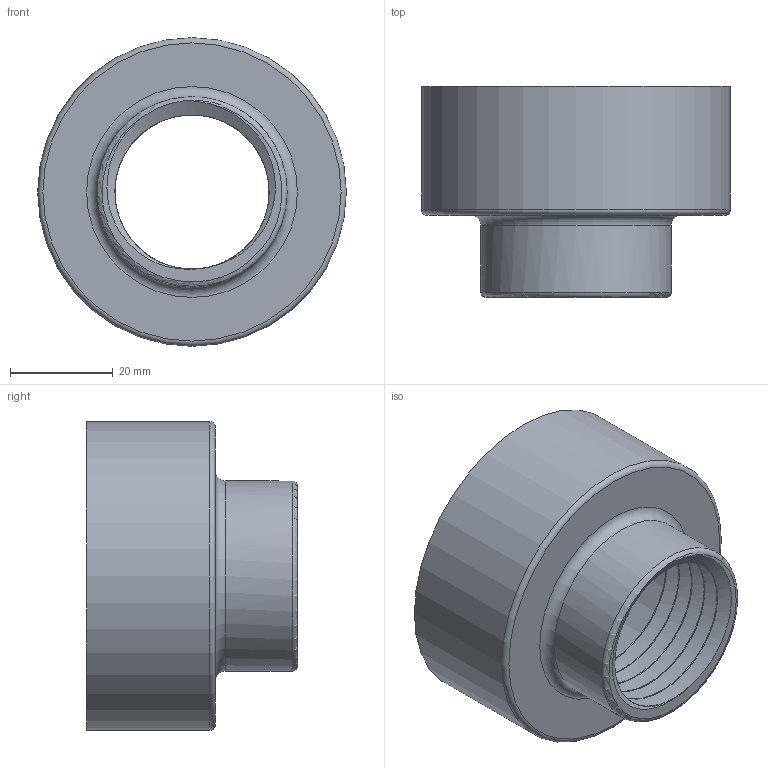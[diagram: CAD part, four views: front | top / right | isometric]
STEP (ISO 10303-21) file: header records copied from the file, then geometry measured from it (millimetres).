
FILE_DESCRIPTION(/* description */ ('Alibre Inc.'),/* implementation_level */ '2;1');
FILE_NAME(/* name */ 'export0',/* time_stamp */ '2011-12-08T16:22:04+01:00',/* author */ (''),/* organization */ (''),/* preprocessor_version */ 'ST-DEVELOPER v14',/* originating_system */ 'Alibre',/* authorisation */ '');
FILE_SCHEMA (('CONFIG_CONTROL_DESIGN'));
Length unit declared in the file: centimetre
Products named in the file (1): ID_1
Bounding box: 60 x 41 x 60 mm (x, y, z)
Volume: 11966 mm3; surface area: 18028.2 mm2
Topology: 1 solids, 1 shells, 13 faces, 28 edges, 17 vertices
Faces by surface type: cylinder 4, torus 4, plane 3, bspline 2
Full cylindrical faces by diameter (mm): 37 x1, 58 x1, 60 x1
Entity records: 1837 total; most frequent: CARTESIAN_POINT 1519, ORIENTED_EDGE 40, DIRECTION 37, AXIS2_PLACEMENT_3D 22, EDGE_LOOP 22, FACE_BOUND 22, EDGE_CURVE 20, VERTEX_POINT 16
